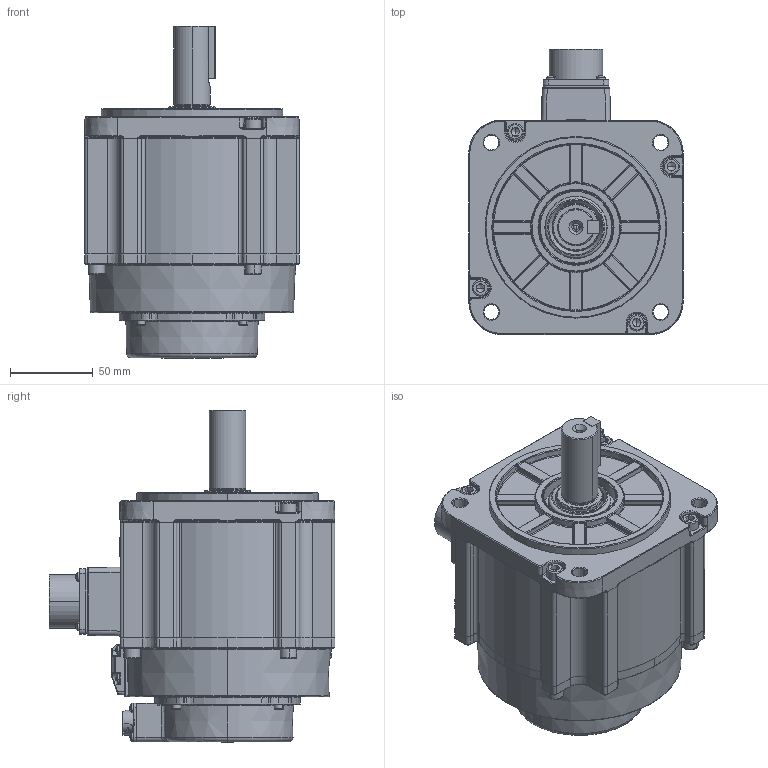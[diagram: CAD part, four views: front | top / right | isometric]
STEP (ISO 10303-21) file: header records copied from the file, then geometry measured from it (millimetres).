
FILE_DESCRIPTION (( 'STEP AP203' ), '1' );
FILE_NAME ('4031310-[][][][]_130µç»ú_DM1S-10A130[]8E.STEP', '2020-06-06T00:56:31', ( '' ), ( '' ), 'SwSTEP 2.0', 'SolidWorks 2018', '' );
FILE_SCHEMA (( 'CONFIG_CONTROL_DESIGN' ));
Length unit declared in the file: millimetre
Products named in the file (1): 4031310-[][][][]_130萇儂_DM1S-10A130[]8E
Bounding box: 130 x 173 x 201 mm (x, y, z)
Surface area: 142617.1 mm2 (no closed solid volume)
Topology: 0 solids, 60 shells, 1432 faces, 4391 edges, 2859 vertices
Faces by surface type: plane 451, cylinder 359, cone 216, bspline 201, torus 161, sphere 44
Entity records: 56143 total; most frequent: CARTESIAN_POINT 18868, DIRECTION 7823, ORIENTED_EDGE 7269, EDGE_CURVE 4331, AXIS2_PLACEMENT_3D 2999, VERTEX_POINT 2857, LINE 1825, VECTOR 1825
